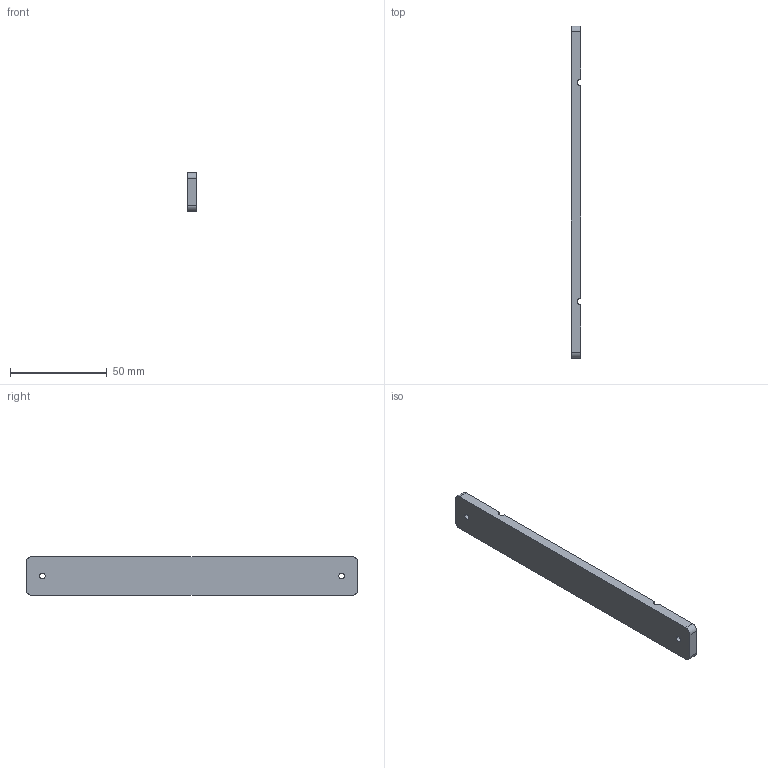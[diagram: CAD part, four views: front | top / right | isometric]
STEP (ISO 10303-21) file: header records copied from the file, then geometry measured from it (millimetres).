
FILE_DESCRIPTION(('CATIA V5 STEP Exchange'),'2;1');
FILE_NAME('C:\Users\Administrator\Desktop\Part3.stp','2021-09-10T07:16:43+00:00',('none'),('none'),'CATIA Version 5 Release 20 GA (IN-10)','CATIA V5 STEP AP203','none');
FILE_SCHEMA(('CONFIG_CONTROL_DESIGN'));
Length unit declared in the file: millimetre
Products named in the file (1): Part3
Bounding box: 5 x 172 x 20 mm (x, y, z)
Volume: 16898.3 mm3; surface area: 8885.4 mm2
Topology: 1 solids, 1 shells, 20 faces, 54 edges, 36 vertices
Faces by surface type: cylinder 12, plane 8
Entity records: 638 total; most frequent: ORIENTED_EDGE 108, CARTESIAN_POINT 105, DIRECTION 82, EDGE_CURVE 54, AXIS2_PLACEMENT_3D 39, VERTEX_POINT 36, VECTOR 30, LINE 30
